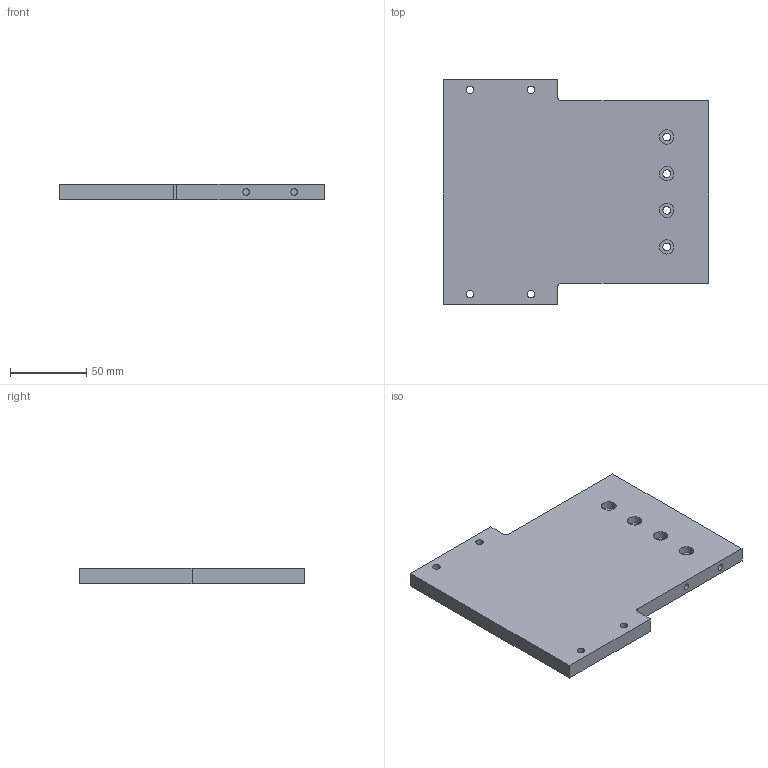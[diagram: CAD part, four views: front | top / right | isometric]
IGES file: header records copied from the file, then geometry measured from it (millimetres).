
Start section:  PTC IGES file: h120-k60l-bp-r.igs
Global section: file name: h120-k60l-bp-r.igs; native system: Pro/ENGINEER by Parametric Technology Corporation; preprocessor: 2008230; author: Owner; organization: Unknown; date: 20121211.135602; units: millimetre
Bounding box: 174 x 148 x 10 mm (x, y, z)
Surface area: 53875.4 mm2 (no closed solid volume)
Topology: 0 solids, 0 shells, 48 faces, 240 edges, 240 vertices
Faces by surface type: revolution 30, bspline 18
